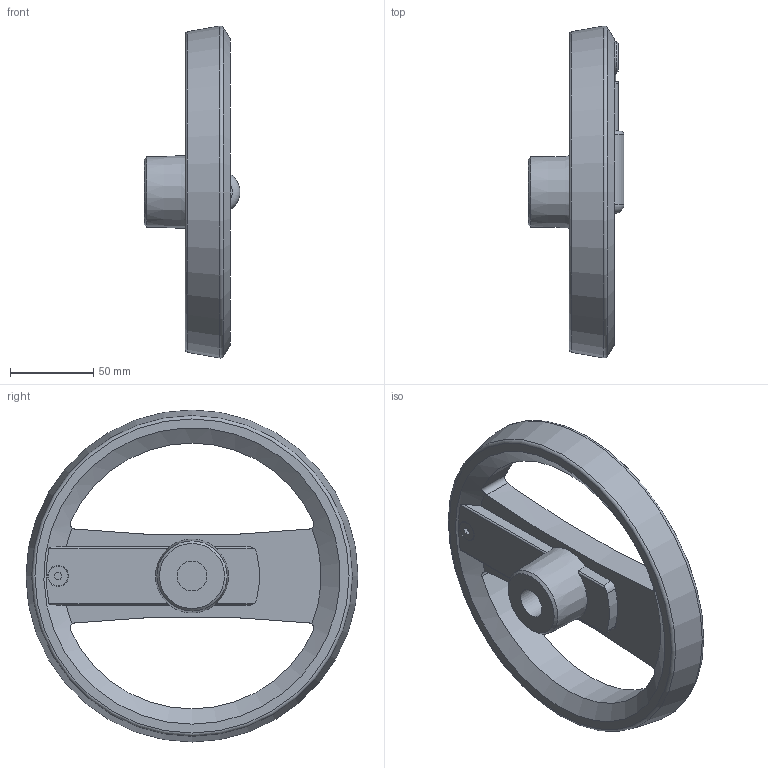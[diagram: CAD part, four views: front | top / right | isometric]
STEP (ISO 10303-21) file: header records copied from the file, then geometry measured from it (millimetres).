
FILE_DESCRIPTION( ( 'STEP AP203' ), '1' );
FILE_NAME( 'C:/Temp/Ganter_Step_05_03_2020/data/1_3/gn_924_7/gn_924_7_b/Handwheel with retractable handle GN 924.7-200-B18-R-SW (unactivated).stp', '2020-03-05T10:41:43', ( 'License CC BY-ND 4.0' ), ( 'CADENAS' ), ' ', 'PARTsolutions', ' ' );
FILE_SCHEMA( ( 'CONFIG_CONTROL_DESIGN' ) );
Length unit declared in the file: millimetre
Products named in the file (3): Handwheel with retractable handle GN 924.7-200-B18-R-SW (unactivated); _Umleggriff-Handrad GN 924.7-200-B18-R-SW-1; _Umleggriff-Handrad GN 924.7-200-B18-R-SW (0)-2
Assembly tree (2 placements, depth 2):
  Handwheel with retractable handle GN 924.7-200-B18-R-SW (unactivated)
    _Umleggriff-Handrad GN 924.7-200-B18-R-SW-1
    _Umleggriff-Handrad GN 924.7-200-B18-R-SW (0)-2
Bounding box: 57.7 x 199.58 x 199.58 mm (x, y, z)
Volume: 415344.8 mm3; surface area: 85806.9 mm2
Topology: 2 solids, 2 shells, 101 faces, 258 edges, 165 vertices
Faces by surface type: plane 41, cylinder 40, cone 10, torus 8, sphere 2
Full cylindrical faces by diameter (mm): 4 x4, 5 x1, 8 x1, 12 x1, 15 x1, 18 x1, 18.5 x1, 20 x1, 25 x2, 26.6 x1
Entity records: 3335 total; most frequent: CARTESIAN_POINT 938, DIRECTION 486, ORIENTED_EDGE 432, EDGE_CURVE 216, AXIS2_PLACEMENT_3D 203, VERTEX_POINT 158, EDGE_LOOP 145, FACE_OUTER_BOUND 122
